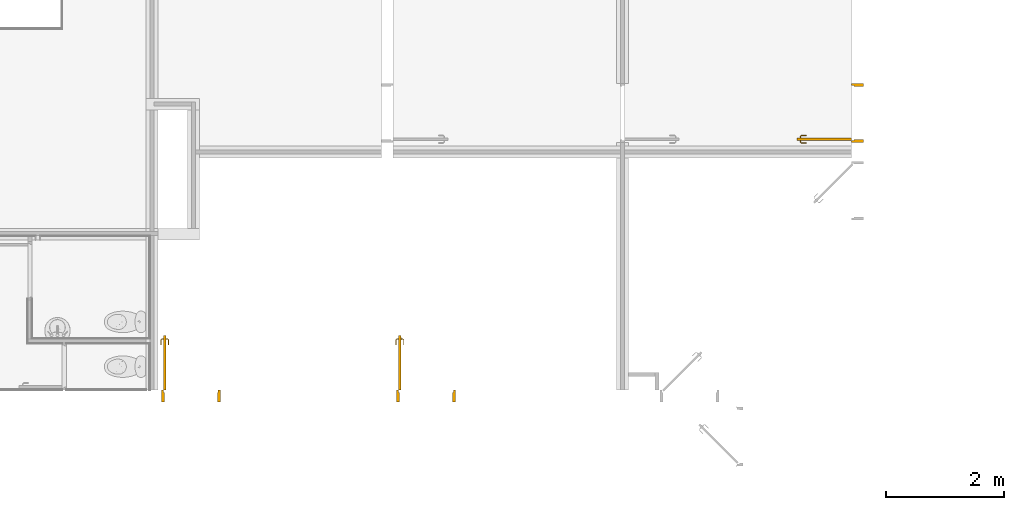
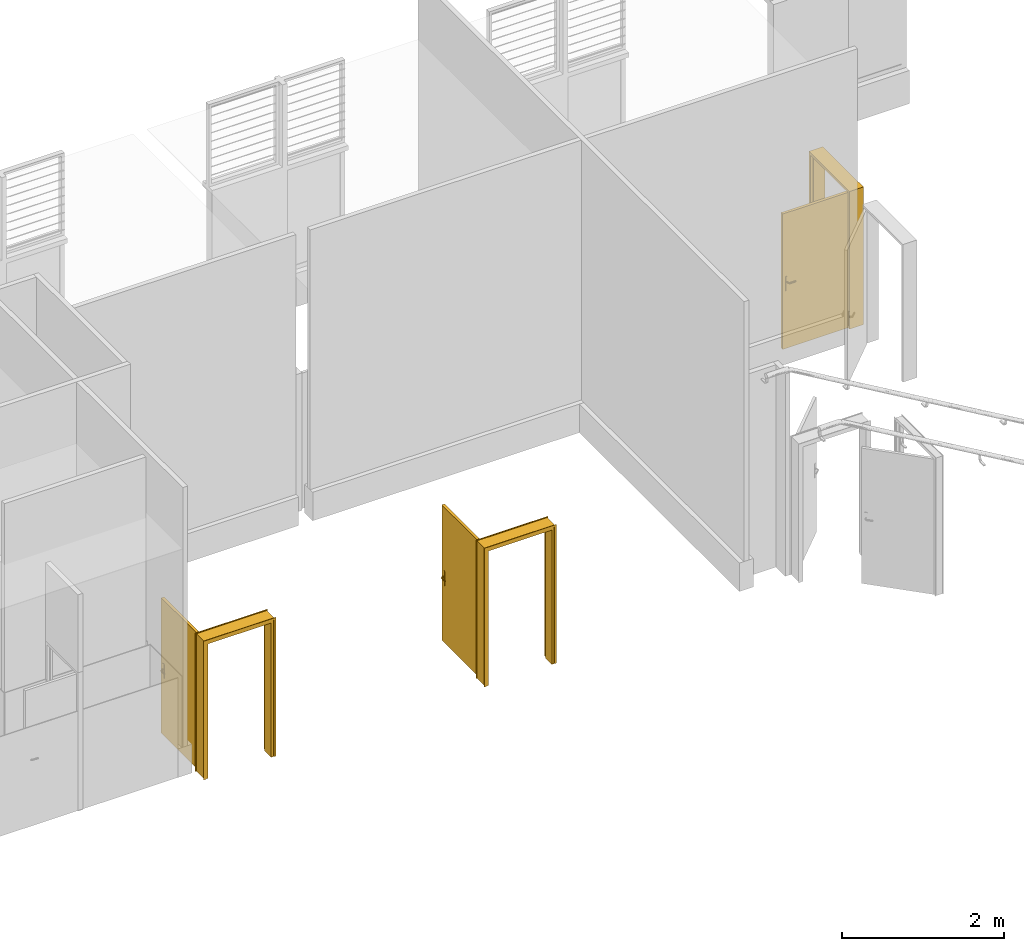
# One storey, part 12 of 18: 3 doors.
"""IFC2X3 building model written with IfcOpenShell, lengths in metres."""

import ifcopenshell
import ifcopenshell.guid

model = None  # the IFC model being written
_history = None  # IfcOwnerHistory: only IFC2X3 demands one
_inside = {}  # id of a spatial element -> (the spatial element, [elements in it])
_under = {}  # id of a project, library or spatial element -> (it, [spatial elements below it])
_declared = {}  # id of a project -> (the project, [libraries it declares])
_typed = {}  # id of a type object -> (the type object, [elements of that type])
_made_of = {}  # id of a material, layer set ... -> (it, [elements and type objects made of it])


def new_model(schema):
    """Start an empty IFC model of exactly this schema.

    Asked for "IFC4X3", IfcOpenShell would pick the latest addendum, in which some entities
    have other attributes; the version numbers below select the first issue.
    IFC2X3 requires an IfcOwnerHistory on every rooted entity: one is made here for all.
    """
    global model, _history
    if schema == "IFC4X3":
        model = ifcopenshell.file(schema_version=(4, 3, 0, 0))
    else:
        model = ifcopenshell.file(schema=schema)
    _inside.clear()
    _under.clear()
    _declared.clear()
    _typed.clear()
    _made_of.clear()
    _history = None
    if model.schema == "IFC2X3":
        org = make("IfcOrganization", Name="unknown")
        user = make(
            "IfcPersonAndOrganization",
            ThePerson=make("IfcPerson", FamilyName="unknown"),
            TheOrganization=org,
        )
        app = make(
            "IfcApplication",
            ApplicationDeveloper=org,
            Version="unknown",
            ApplicationFullName="unknown",
            ApplicationIdentifier="unknown",
        )
        _history = make(
            "IfcOwnerHistory",
            OwningUser=user,
            OwningApplication=app,
            ChangeAction="ADDED",
            CreationDate=0,
        )
    return model


def make(cls, **values):
    """One entity of the class cls with the attributes given. An attribute that is None is left unset."""
    return model.create_entity(
        cls, **{name: value for name, value in values.items() if value is not None}
    )


def entity(cls, *values):
    """Any entity or typed value of the class cls, its attributes in the order of the schema. None: left unset."""
    e = model.create_entity(cls)
    for i, value in enumerate(values):
        if value is not None:
            e[i] = value
    return e


def rooted(cls, **values):
    """An entity with a GlobalId (a new one), such as an element, a storey or a relation."""
    return make(cls, GlobalId=ifcopenshell.guid.new(), OwnerHistory=_history, **values)


def si_unit(unit_type, name, prefix=None):
    """IfcSIUnit, for example si_unit("LENGTHUNIT", "METRE", prefix="MILLI")."""
    return make("IfcSIUnit", UnitType=unit_type, Prefix=prefix, Name=name)


def converted_unit(unit_type, name, factor, base, dimensions=None, offset=None):
    """IfcConversionBasedUnit, such as the inch: factor (a typed value) times the base unit."""
    return make(
        "IfcConversionBasedUnit"
        if offset is None
        else "IfcConversionBasedUnitWithOffset",
        ConversionOffset=offset,
        Dimensions=None
        if dimensions is None
        else entity("IfcDimensionalExponents", *dimensions),
        UnitType=unit_type,
        Name=name,
        ConversionFactor=make(
            "IfcMeasureWithUnit", ValueComponent=factor, UnitComponent=base
        ),
    )


def derived_unit(unit_type, elements):
    """IfcDerivedUnit: a product of units, each with its exponent."""
    return make(
        "IfcDerivedUnit",
        Elements=[
            make("IfcDerivedUnitElement", Unit=unit, Exponent=power)
            for unit, power in elements
        ],
        UnitType=unit_type,
    )


def assignment(units):
    """IfcUnitAssignment: the units of a project."""
    return None if units is None else make("IfcUnitAssignment", Units=units)


def point(xyz):
    """IfcCartesianPoint."""
    return None if xyz is None else make("IfcCartesianPoint", Coordinates=xyz)


def direction(xyz):
    """IfcDirection."""
    return None if xyz is None else make("IfcDirection", DirectionRatios=xyz)


def frame(location, z_axis=None, x_axis=None):
    """IfcAxis2Placement3D, a coordinate frame: its origin and axes. An axis left out is left unset."""
    return make(
        "IfcAxis2Placement3D",
        Location=point(location),
        Axis=direction(z_axis),
        RefDirection=direction(x_axis),
    )


def origin():
    """The frame at (0, 0, 0) with its axes left unset."""
    return frame((0.0, 0.0, 0.0))


def place(relative_to, where):
    """IfcLocalPlacement: puts the frame where relative to a parent placement (None: the world)."""
    return make(
        "IfcLocalPlacement", PlacementRelTo=relative_to, RelativePlacement=where
    )


def context(
    kind, dimensions, precision=None, world=None, true_north=None, identifier=None
):
    """IfcGeometricRepresentationContext, for example the 3D "Model" context."""
    return make(
        "IfcGeometricRepresentationContext",
        ContextIdentifier=identifier,
        ContextType=kind,
        CoordinateSpaceDimension=dimensions,
        Precision=precision,
        WorldCoordinateSystem=world,
        TrueNorth=true_north,
    )


def subcontext(parent, identifier, kind, view, scale=None):
    """IfcGeometricRepresentationSubContext, for example "Body" below "Model"."""
    return make(
        "IfcGeometricRepresentationSubContext",
        ContextIdentifier=identifier,
        ContextType=kind,
        ParentContext=parent,
        TargetScale=scale,
        TargetView=view,
    )


def project(units=None, contexts=None):
    """IfcProject with its units and contexts."""
    return rooted(
        "IfcProject",
        Name="project",
        RepresentationContexts=contexts,
        UnitsInContext=assignment(units),
    )


def spatial(cls, under=None, at=None, **own):
    """A site, building, storey or space (cls), placed at a placement, below another one or the project."""
    s = rooted(cls, ObjectPlacement=at, **own)
    if under is not None:
        _under.setdefault(under.id(), (under, []))[1].append(s)
    return s


def faces_of(points, faces, orient=None, outer=None):
    """IfcFace entities. A face is a list of loops; a loop is a list of indices into points, from 0.

    orient and outer hold one flag for each loop. By default every Orientation is true, the
    first loop of a face is its IfcFaceOuterBound and the others are IfcFaceBound.
    """
    made = []
    for i, loops in enumerate(faces):
        bounds = []
        for j, loop in enumerate(loops):
            is_outer = j == 0 if outer is None else outer[i][j]
            bounds.append(
                make(
                    "IfcFaceOuterBound" if is_outer else "IfcFaceBound",
                    Bound=make("IfcPolyLoop", Polygon=[points[k] for k in loop]),
                    Orientation=True if orient is None else orient[i][j],
                )
            )
        made.append(make("IfcFace", Bounds=bounds))
    return made


def faceted_brep(points, faces, orient=None, outer=None, voids=None):
    """IfcFacetedBrep: a solid bounded by flat faces; with voids (closed shells), ...WithVoids."""
    shared = [point(p) for p in points]
    hull = make("IfcClosedShell", CfsFaces=faces_of(shared, faces, orient, outer))
    if voids is None:
        return make("IfcFacetedBrep", Outer=hull)
    return make(
        "IfcFacetedBrepWithVoids",
        Outer=hull,
        Voids=[
            make(cls, CfsFaces=faces_of(shared, fs, o, b)) for cls, fs, o, b in voids
        ],
    )


def shape(context_of_items, identifier, shape_type, items):
    """IfcShapeRepresentation: the items that make up one representation, for example the "Body"."""
    return make(
        "IfcShapeRepresentation",
        ContextOfItems=context_of_items,
        RepresentationIdentifier=identifier,
        RepresentationType=shape_type,
        Items=items,
    )


def source(mapping_origin, context_of_items, identifier, shape_type, items):
    """IfcRepresentationMap: a shape defined once, which mapped items show again and again."""
    return make(
        "IfcRepresentationMap",
        MappingOrigin=mapping_origin,
        MappedRepresentation=shape(context_of_items, identifier, shape_type, items),
    )


def transform(
    local_origin,
    x_axis=None,
    y_axis=None,
    z_axis=None,
    scale=None,
    scale2=None,
    scale3=None,
    uniform=True,
):
    """IfcCartesianTransformationOperator3D, or its non-uniform kind. x_axis, y_axis, z_axis: its Axis1, 2, 3."""
    if uniform:
        return make(
            "IfcCartesianTransformationOperator3D",
            Axis1=direction(x_axis),
            Axis2=direction(y_axis),
            LocalOrigin=point(local_origin),
            Scale=scale,
            Axis3=direction(z_axis),
        )
    return make(
        "IfcCartesianTransformationOperator3DnonUniform",
        Axis1=direction(x_axis),
        Axis2=direction(y_axis),
        LocalOrigin=point(local_origin),
        Scale=scale,
        Axis3=direction(z_axis),
        Scale2=scale2,
        Scale3=scale3,
    )


def mapped(mapping_source, mapping_target):
    """IfcMappedItem: shows the shape of a source again, moved by a transform."""
    return make(
        "IfcMappedItem", MappingSource=mapping_source, MappingTarget=mapping_target
    )


def material(Name=None, Category=None):
    """IfcMaterial."""
    return make("IfcMaterial", Name=Name, Category=Category)


def material_list(materials):
    """IfcMaterialList."""
    return make("IfcMaterialList", Materials=materials)


def made_of(thing, what):
    """Note that an element or type object is made of a material, layer set ...; save() writes the relation."""
    if what is not None:
        _made_of.setdefault(what.id(), (what, []))[1].append(thing)
    return thing


def type_object(cls, material=None, **own):
    """A type object (cls), such as IfcWallType, which elements share."""
    return made_of(rooted(cls, **own), material)


def type_shapes(of_type, sources):
    """Give a type object the sources (RepresentationMaps) that its elements show as mapped items."""
    of_type.RepresentationMaps = sources


def element(
    cls,
    number,
    at=None,
    inside=None,
    cuts=None,
    type_object=None,
    material=None,
    context=None,
    identifier="Body",
    shape_type=None,
    held_by="IfcProductDefinitionShape",
    body=None,
    shapes=None,
    **own,
):
    """One element of the class cls, such as IfcWall. Its Tag is "e" and its number.

    at: its placement. inside: the storey or other place that contains it. cuts: it is an
    opening in that element (IfcRelVoidsElement). A single representation is given by context,
    identifier, shape_type and body (its items); several are given by shapes. held_by: the class
    of the entity that holds the representations. save() writes the other relations.
    """
    e = rooted(cls, Tag="e%d" % number, ObjectPlacement=at, **own)
    if body is not None:
        shapes = [shape(context, identifier, shape_type, body)]
    if shapes is not None:
        e.Representation = make(held_by, Representations=shapes)
    if inside is not None:
        _inside.setdefault(inside.id(), (inside, []))[1].append(e)
    if cuts is not None:
        rooted(
            "IfcRelVoidsElement", RelatingBuildingElement=cuts, RelatedOpeningElement=e
        )
    if type_object is not None:
        _typed.setdefault(type_object.id(), (type_object, []))[1].append(e)
    return made_of(e, material)


def aggregate(whole, parts):
    """IfcRelAggregates: a whole, such as a stair, and the parts it consists of."""
    return rooted("IfcRelAggregates", RelatingObject=whole, RelatedObjects=parts)


def save(model, path):
    """Write the relations noted so far, then the file.

    IfcRelAggregates (storeys below a building ...), IfcRelContainedInSpatialStructure (elements
    in a storey), IfcRelDefinesByType, IfcRelAssociatesMaterial and IfcRelDeclares: one each for
    every whole, place, type object, material and project.
    """
    for whole, parts in _under.values():
        aggregate(whole, parts)
    for where, things in _inside.values():
        rooted(
            "IfcRelContainedInSpatialStructure",
            RelatedElements=things,
            RelatingStructure=where,
        )
    for kind, things in _typed.values():
        rooted("IfcRelDefinesByType", RelatedObjects=things, RelatingType=kind)
    for what, things in _made_of.values():
        rooted("IfcRelAssociatesMaterial", RelatedObjects=things, RelatingMaterial=what)
    for by, libraries in _declared.values():
        rooted("IfcRelDeclares", RelatingContext=by, RelatedDefinitions=libraries)
    model.write(path)


model = new_model("IFC2X3")

# Units and contexts
model_context = context("Model", 3, precision=1e-05, world=origin(), true_north=direction((6.12303176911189e-17, 1.0)))
body_context = subcontext(model_context, "Body", "Model", "MODEL_VIEW")
ifc_project = project(units=[si_unit("LENGTHUNIT", "METRE"), si_unit("AREAUNIT", "SQUARE_METRE"), si_unit("VOLUMEUNIT", "CUBIC_METRE"), converted_unit("PLANEANGLEUNIT", "DEGREE", entity("IfcRatioMeasure", 0.0174532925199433), si_unit("PLANEANGLEUNIT", "RADIAN"), dimensions=[0, 0, 0, 0, 0, 0, 0]), si_unit("MASSUNIT", "GRAM", prefix="KILO"), derived_unit("MASSDENSITYUNIT", [(si_unit("MASSUNIT", "GRAM", prefix="KILO"), 1), (si_unit("LENGTHUNIT", "METRE"), -3)]), si_unit("TIMEUNIT", "SECOND"), si_unit("FREQUENCYUNIT", "HERTZ"), si_unit("THERMODYNAMICTEMPERATUREUNIT", "DEGREE_CELSIUS"), derived_unit("THERMALTRANSMITTANCEUNIT", [(si_unit("MASSUNIT", "GRAM", prefix="KILO"), 1), (si_unit("THERMODYNAMICTEMPERATUREUNIT", "KELVIN"), -1), (si_unit("TIMEUNIT", "SECOND"), -3)]), derived_unit("VOLUMETRICFLOWRATEUNIT", [(si_unit("LENGTHUNIT", "METRE"), 3), (si_unit("TIMEUNIT", "SECOND"), -1)]), si_unit("ELECTRICCURRENTUNIT", "AMPERE"), si_unit("ELECTRICVOLTAGEUNIT", "VOLT"), si_unit("POWERUNIT", "WATT"), si_unit("FORCEUNIT", "NEWTON", prefix="KILO"), si_unit("ILLUMINANCEUNIT", "LUX"), si_unit("LUMINOUSFLUXUNIT", "LUMEN"), si_unit("LUMINOUSINTENSITYUNIT", "CANDELA"), derived_unit("USERDEFINED", [(si_unit("MASSUNIT", "GRAM", prefix="KILO"), -1), (si_unit("LENGTHUNIT", "METRE"), -2), (si_unit("TIMEUNIT", "SECOND"), 3), (si_unit("LUMINOUSFLUXUNIT", "LUMEN"), 1)]), derived_unit("LINEARVELOCITYUNIT", [(si_unit("LENGTHUNIT", "METRE"), 1), (si_unit("TIMEUNIT", "SECOND"), -1)]), si_unit("PRESSUREUNIT", "PASCAL"), derived_unit("USERDEFINED", [(si_unit("LENGTHUNIT", "METRE"), -2), (si_unit("MASSUNIT", "GRAM", prefix="KILO"), 1), (si_unit("TIMEUNIT", "SECOND"), -2)])], contexts=[model_context])

# Site, building, storey
site_placement = place(None, origin())
site = spatial("IfcSite", under=ifc_project, at=site_placement, Name="Surface", CompositionType="ELEMENT")
building_placement = place(site_placement, origin())
building = spatial("IfcBuilding", under=site, at=building_placement, Name="ExPREF", CompositionType="ELEMENT")
storey_placement = place(building_placement, frame((0.0, 0.0, -4.62)))
storey = spatial("IfcBuildingStorey", under=building, at=storey_placement, Name="R-1", CompositionType="ELEMENT", Elevation=-4.62)

# Doors
ifc_material_1 = material(Name="AA-Blanc satiné")
ifc_material_2 = material(Name="AA-Aluminium")
ifc_material_list_1 = material_list([ifc_material_1, ifc_material_2])
ifc_material_list_2 = material_list([ifc_material_1, ifc_material_2])
door_style_1 = type_object("IfcDoorStyle", Name="PP (0.93m x 2.04m) métal", ConstructionType="NOTDEFINED", OperationType="SINGLE_SWING_LEFT", ParameterTakesPrecedence=False, Sizeable=False, material=ifc_material_list_2)
shared_shape_1 = source(origin(), body_context, "Body", "Brep", [
    faceted_brep([(0.919999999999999, -0.872025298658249, 1.00778044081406), (0.919999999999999, -0.876000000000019, 1.007), (0.919999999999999, -0.876000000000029, 0.992999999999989), (0.919999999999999, -0.872025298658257, 0.99221955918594), (0.919999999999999, -0.867974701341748, 0.992219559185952), (0.919999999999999, -0.863999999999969, 0.993000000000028), (0.919999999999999, -0.86399999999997, 1.007), (0.919999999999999, -0.867974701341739, 1.00778044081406), (0.897514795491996, -0.863999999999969, 0.993000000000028), (0.897514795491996, -0.863999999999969, 1.007), (0.895868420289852, -0.867974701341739, 1.00778044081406), (0.882054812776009, -0.854161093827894, 1.00778044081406), (0.878004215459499, -0.855838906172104, 1.00778044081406), (0.894190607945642, -0.872025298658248, 1.00778044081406), (0.892544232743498, -0.876000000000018, 1.007), (0.892544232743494, -0.876000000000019, 0.992999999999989), (0.894190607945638, -0.872025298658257, 0.99221955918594), (0.87800421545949, -0.855838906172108, 0.99221955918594), (0.882054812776, -0.854161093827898, 0.992219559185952), (0.895868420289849, -0.867974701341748, 0.992219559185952), (0.886029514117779, -0.852514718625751, 0.993000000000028), (0.886029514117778, -0.85251471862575, 1.007), (0.874029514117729, -0.857485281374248, 1.007), (0.874029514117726, -0.857485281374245, 0.992999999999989), (0.886029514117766, -0.769954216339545, 0.993000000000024), (0.882054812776, -0.769954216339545, 0.992219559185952), (0.87800421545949, -0.769954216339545, 0.99221955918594), (0.874029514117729, -0.769954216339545, 0.992999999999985), (0.87402951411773, -0.769954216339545, 1.007), (0.878004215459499, -0.769954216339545, 1.00778044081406), (0.882054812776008, -0.769954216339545, 1.00778044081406), (0.886029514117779, -0.769954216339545, 1.007), (0.886029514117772, -0.811234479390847, 0.993000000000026), (0.886029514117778, -0.811234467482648, 1.007), (0.880029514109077, -0.812057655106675, 1.0078786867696), (0.87402951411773, -0.81755479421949, 1.007), (0.874029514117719, -0.8175547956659, 0.992999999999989), (0.880029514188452, -0.812057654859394, 0.992121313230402)], [[[0, 1, 2, 3, 4, 5, 6, 7]], [[6, 5, 8, 9]], [[9, 10, 7, 6]], [[10, 11, 12, 13, 0, 7]], [[13, 14, 1, 0]], [[2, 1, 14, 15]], [[15, 16, 3, 2]], [[16, 17, 18, 19, 4, 3]], [[19, 8, 5, 4]], [[9, 8, 20, 21]], [[21, 11, 10, 9]], [[12, 22, 14, 13]], [[15, 14, 22, 23]], [[23, 17, 16, 15]], [[18, 20, 8, 19]], [[24, 25, 26, 27, 28, 29, 30, 31]], [[21, 20, 32, 24, 31, 33]], [[33, 30, 34]], [[35, 34, 29]], [[21, 33, 11]], [[33, 31, 30]], [[28, 35, 29]], [[22, 12, 35]], [[35, 12, 34]], [[12, 11, 34]], [[11, 33, 34]], [[29, 34, 30]], [[22, 35, 28, 27, 36, 23]], [[36, 26, 37]], [[27, 26, 36]], [[17, 23, 36]], [[37, 32, 18]], [[20, 18, 32]], [[32, 25, 24]], [[26, 25, 37]], [[25, 32, 37]], [[17, 36, 37]], [[17, 37, 18]]]),
    faceted_brep([(0.969999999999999, -0.872025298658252, 1.00778044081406), (0.969999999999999, -0.867974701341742, 1.00778044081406), (0.969999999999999, -0.863999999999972, 1.00699999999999), (0.969999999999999, -0.863999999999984, 0.993000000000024), (0.969999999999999, -0.867974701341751, 0.992219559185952), (0.969999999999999, -0.87202529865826, 0.99221955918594), (0.969999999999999, -0.876000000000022, 0.992999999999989), (0.969999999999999, -0.876000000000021, 1.007), (0.997650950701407, -0.876000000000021, 1.007), (0.996004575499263, -0.872025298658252, 1.00778044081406), (1.01205345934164, -0.855976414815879, 1.00778044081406), (1.00800286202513, -0.854298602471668, 1.00778044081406), (0.994326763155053, -0.867974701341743, 1.00778044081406), (0.992680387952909, -0.86399999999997, 1.007), (0.992680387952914, -0.863999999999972, 0.993000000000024), (0.994326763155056, -0.867974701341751, 0.992219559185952), (1.00800286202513, -0.854298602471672, 0.992219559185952), (1.01205345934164, -0.855976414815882, 0.99221955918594), (0.996004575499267, -0.87202529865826, 0.99221955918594), (0.997650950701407, -0.876000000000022, 0.992999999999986), (1.0160281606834, -0.857622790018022, 1.007), (1.00402816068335, -0.852652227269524, 1.007), (1.00402816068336, -0.852652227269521, 0.993000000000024), (1.01602816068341, -0.857622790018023, 0.992999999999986), (1.01602816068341, -0.769981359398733, 0.992999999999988), (1.01205345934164, -0.769981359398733, 0.99221955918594), (1.00800286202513, -0.769981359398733, 0.992219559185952), (1.00402816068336, -0.769981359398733, 0.993000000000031), (1.00402816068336, -0.769981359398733, 1.007), (1.00800286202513, -0.769981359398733, 1.00778044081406), (1.01205345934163, -0.769981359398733, 1.00778044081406), (1.0160281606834, -0.769981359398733, 1.00699999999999), (1.01602816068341, -0.817692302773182, 1.007), (1.01002816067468, -0.812139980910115, 1.0078786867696), (1.00402816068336, -0.811316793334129, 1.007), (1.00402816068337, -0.811316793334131, 0.993000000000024), (1.01002816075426, -0.812139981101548, 0.992121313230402), (1.01602816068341, -0.817692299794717, 0.992999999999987)], [[[0, 1, 2, 3, 4, 5, 6, 7]], [[8, 9, 0, 7]], [[9, 10, 11, 12, 1, 0]], [[12, 13, 2, 1]], [[3, 2, 13, 14]], [[14, 15, 4, 3]], [[15, 16, 17, 18, 5, 4]], [[18, 19, 6, 5]], [[7, 6, 19, 8]], [[20, 10, 9, 8]], [[11, 21, 13, 12]], [[14, 13, 21, 22]], [[22, 16, 15, 14]], [[17, 23, 19, 18]], [[8, 19, 23, 20]], [[24, 25, 26, 27, 28, 29, 30, 31]], [[32, 30, 33]], [[31, 30, 32]], [[10, 20, 32]], [[33, 34, 11]], [[21, 11, 34]], [[34, 29, 28]], [[30, 29, 33]], [[29, 34, 33]], [[10, 32, 33]], [[10, 33, 11]], [[22, 21, 34, 28, 27, 35]], [[35, 26, 36]], [[37, 36, 25]], [[22, 35, 16]], [[35, 27, 26]], [[24, 37, 25]], [[23, 17, 37]], [[37, 17, 36]], [[17, 16, 36]], [[16, 35, 36]], [[25, 36, 26]], [[20, 23, 37, 24, 31, 32]]]),
    faceted_brep([(0.924999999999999, -0.859647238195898, 0.866003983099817), (0.924999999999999, -0.849999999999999, 0.870000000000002), (0.924999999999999, -0.850000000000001, 1.08), (0.924999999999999, -0.8596472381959, 1.08399601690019), (0.924999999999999, -0.87, 1.08535898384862), (0.924999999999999, -0.880352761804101, 1.08399601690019), (0.924999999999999, -0.89, 1.08), (0.924999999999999, -0.889999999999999, 0.870000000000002), (0.924999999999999, -0.880352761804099, 0.866003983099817), (0.924999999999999, -0.869999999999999, 0.86464101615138), (0.919999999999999, -0.8596472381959, 1.08399601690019), (0.919999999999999, -0.850000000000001, 1.08), (0.919999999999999, -0.849999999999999, 0.870000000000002), (0.919999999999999, -0.859647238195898, 0.866003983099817), (0.919999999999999, -0.869999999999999, 0.86464101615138), (0.919999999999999, -0.880352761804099, 0.866003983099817), (0.919999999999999, -0.89, 0.870000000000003), (0.919999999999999, -0.89, 1.08), (0.919999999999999, -0.880352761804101, 1.08399601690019), (0.919999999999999, -0.87, 1.08535898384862)], [[[0, 1, 2, 3, 4, 5, 6, 7, 8, 9]], [[10, 11, 12, 13, 14, 15, 16, 17, 18, 19]], [[11, 10, 3, 2]], [[3, 10, 19, 4]], [[19, 18, 5, 4]], [[18, 17, 6, 5]], [[7, 6, 17, 16]], [[16, 15, 8, 7]], [[8, 15, 14, 9]], [[14, 13, 0, 9]], [[13, 12, 1, 0]], [[2, 1, 12, 11]]]),
    faceted_brep([(0.969999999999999, -0.859647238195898, 0.866003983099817), (0.969999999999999, -0.849999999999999, 0.870000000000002), (0.969999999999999, -0.85, 1.08), (0.969999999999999, -0.859647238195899, 1.08399601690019), (0.969999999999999, -0.87, 1.08535898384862), (0.969999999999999, -0.880352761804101, 1.08399601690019), (0.969999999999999, -0.89, 1.08), (0.969999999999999, -0.889999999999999, 0.870000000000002), (0.969999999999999, -0.880352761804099, 0.866003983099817), (0.969999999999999, -0.869999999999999, 0.86464101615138), (0.964999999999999, -0.859647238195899, 1.08399601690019), (0.964999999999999, -0.850000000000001, 1.08), (0.964999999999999, -0.849999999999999, 0.870000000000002), (0.964999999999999, -0.859647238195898, 0.866003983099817), (0.964999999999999, -0.869999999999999, 0.86464101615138), (0.964999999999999, -0.880352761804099, 0.866003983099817), (0.964999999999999, -0.89, 0.870000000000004), (0.964999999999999, -0.89, 1.08), (0.964999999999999, -0.880352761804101, 1.08399601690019), (0.964999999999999, -0.87, 1.08535898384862)], [[[0, 1, 2, 3, 4, 5, 6, 7, 8, 9]], [[10, 11, 12, 13, 14, 15, 16, 17, 18, 19]], [[16, 15, 8, 7]], [[8, 15, 14, 9]], [[14, 13, 0, 9]], [[13, 12, 1, 0]], [[2, 1, 12, 11]], [[11, 10, 3, 2]], [[3, 10, 19, 4]], [[19, 18, 5, 4]], [[18, 17, 6, 5]], [[7, 6, 17, 16]]]),
    faceted_brep([(0.924999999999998, -0.93, 2.04), (0.924999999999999, 0.0, 2.04), (0.924999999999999, 0.0, 0.0), (0.924999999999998, -0.93, 0.0), (0.964999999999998, -0.93, 2.04), (0.964999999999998, -0.93, 0.0), (0.965, 0.0, 0.0), (0.965, 0.0, 2.04)], [[[0, 1, 2, 3]], [[4, 5, 6, 7]], [[1, 0, 4, 7]], [[2, 1, 7, 6]], [[3, 2, 6, 5]], [[0, 3, 5, 4]]]),
    faceted_brep([(0.0, 0.0, 0.0), (0.0, 0.200000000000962, 0.0), (0.0499999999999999, 0.200000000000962, 0.0), (0.0499999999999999, 0.040000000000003, 0.0), (0.0349999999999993, 0.040000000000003, 0.0), (0.0349999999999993, 0.0, 0.0), (0.0, 0.0, 2.07500000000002), (0.0, 0.200000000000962, 2.07500000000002), (1.0, 0.200000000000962, 2.07500000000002), (1.0, 0.200000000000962, 0.0), (0.95, 0.200000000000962, 0.0), (0.95, 0.200000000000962, 2.025), (0.0500000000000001, 0.200000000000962, 2.025), (0.05, 0.040000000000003, 2.025), (0.95, 0.040000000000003, 2.025), (0.95, 0.040000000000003, 0.0), (0.965, 0.040000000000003, 0.0), (0.965, 0.040000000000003, 2.04), (0.0349999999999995, 0.040000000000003, 2.04), (0.0349999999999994, 0.0, 2.04), (0.965, 0.0, 2.04), (0.965, 0.0, 0.0), (1.0, 0.0, 0.0), (1.0, 0.0, 2.07500000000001)], [[[0, 1, 2, 3, 4, 5]], [[1, 0, 6, 7]], [[2, 1, 7, 8, 9, 10, 11, 12]], [[3, 2, 12, 13]], [[4, 3, 13, 14, 15, 16, 17, 18]], [[5, 4, 18, 19]], [[0, 5, 19, 20, 21, 22, 23, 6]], [[8, 23, 22, 9]], [[22, 21, 16, 15, 10, 9]], [[14, 11, 10, 15]], [[20, 17, 16, 21]], [[7, 6, 23, 8]], [[13, 12, 11, 14]], [[19, 18, 17, 20]]]),
    faceted_brep([(0.0149999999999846, 0.200000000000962, 0.0), (-0.0150000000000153, 0.200000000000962, 0.0), (-0.0150000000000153, 0.205000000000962, 0.0), (0.0149999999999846, 0.205000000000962, 0.0), (0.0149999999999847, 0.200000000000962, 2.06000000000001), (0.98499999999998, 0.200000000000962, 2.06000000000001), (0.98499999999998, 0.200000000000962, 0.0), (1.01499999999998, 0.200000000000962, 0.0), (1.01499999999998, 0.200000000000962, 2.09000000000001), (-0.0150000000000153, 0.200000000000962, 2.09000000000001), (-0.0150000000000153, 0.205000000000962, 2.09000000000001), (1.01499999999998, 0.205000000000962, 2.09000000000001), (1.01499999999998, 0.205000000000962, 0.0), (0.98499999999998, 0.205000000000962, 0.0), (0.98499999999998, 0.205000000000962, 2.06000000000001), (0.0149999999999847, 0.205000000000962, 2.06000000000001)], [[[0, 1, 2, 3]], [[1, 0, 4, 5, 6, 7, 8, 9]], [[2, 1, 9, 10]], [[3, 2, 10, 11, 12, 13, 14, 15]], [[0, 3, 15, 4]], [[6, 13, 12, 7]], [[5, 14, 13, 6]], [[11, 8, 7, 12]], [[10, 9, 8, 11]], [[4, 15, 14, 5]]]),
    faceted_brep([(-0.0150000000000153, -0.00500000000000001, 0.0), (0.0149999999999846, -0.00500000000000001, 0.0), (0.0149999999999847, -0.00500000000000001, 2.06000000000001), (0.98499999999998, -0.00500000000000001, 2.06000000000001), (0.98499999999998, -0.00500000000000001, 0.0), (1.01499999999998, -0.00500000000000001, 0.0), (1.01499999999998, -0.00500000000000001, 2.09000000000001), (-0.0150000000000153, -0.00500000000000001, 2.09000000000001), (-0.0150000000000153, 0.0, 0.0), (-0.0150000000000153, 0.0, 2.09000000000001), (0.0149999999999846, 0.0, 0.0), (1.01499999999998, 0.0, 2.09000000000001), (1.01499999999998, 0.0, 0.0), (0.98499999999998, 0.0, 0.0), (0.98499999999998, 0.0, 2.06000000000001), (0.0149999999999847, 0.0, 2.06000000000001)], [[[0, 1, 2, 3, 4, 5, 6, 7]], [[8, 0, 7, 9]], [[10, 8, 9, 11, 12, 13, 14, 15]], [[1, 10, 15, 2]], [[3, 14, 13, 4]], [[11, 6, 5, 12]], [[9, 7, 6, 11]], [[2, 15, 14, 3]], [[4, 13, 12, 5]], [[1, 0, 8, 10]]]),
])
type_shapes(door_style_1, [shared_shape_1])
door_1_placement = place(storey_placement, frame((54.6497436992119, -193.259651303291, 0.0), z_axis=(0.0, 0.0, 1.0), x_axis=(-1.0, 0.0, 0.0)))
element("IfcDoor", 1, at=door_1_placement, inside=storey, type_object=door_style_1, material=ifc_material_list_1, Name="Int. Simple:PP (0.93m x 2.04m) métal", ObjectType="PP (0.93m x 2.04m) métal", OverallHeight=2.09000000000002, OverallWidth=1.03102816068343, context=body_context, shape_type="MappedRepresentation", body=[
    mapped(shared_shape_1, transform((0.0, 0.0, 0.0), scale=1.0)),
])
ifc_material_list_3 = material_list([ifc_material_1, ifc_material_2])
door_2_placement = place(storey_placement, frame((50.649743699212, -193.259651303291, 0.0), z_axis=(0.0, 0.0, 1.0), x_axis=(-1.0, 0.0, 0.0)))
element("IfcDoor", 2, at=door_2_placement, inside=storey, type_object=door_style_1, material=ifc_material_list_3, Name="Int. Simple:PP (0.93m x 2.04m) métal", ObjectType="PP (0.93m x 2.04m) métal", OverallHeight=2.09000000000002, OverallWidth=1.03102816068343, context=body_context, shape_type="MappedRepresentation", body=[
    mapped(shared_shape_1, transform((0.0, 0.0, 0.0), scale=1.0)),
])
door_style_2 = type_object("IfcDoorStyle", Name="PP (0.93m x 2.04m)", ConstructionType="NOTDEFINED", OperationType="SINGLE_SWING_LEFT", ParameterTakesPrecedence=False, Sizeable=False, material=ifc_material_1)
shared_shape_2 = source(origin(), body_context, "Body", "Brep", [
    faceted_brep([(0.919999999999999, -0.872025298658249, 1.00778044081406), (0.919999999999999, -0.876000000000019, 1.007), (0.919999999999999, -0.876000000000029, 0.992999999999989), (0.919999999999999, -0.872025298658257, 0.99221955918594), (0.919999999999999, -0.867974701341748, 0.992219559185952), (0.919999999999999, -0.863999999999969, 0.993000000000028), (0.919999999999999, -0.86399999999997, 1.007), (0.919999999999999, -0.867974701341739, 1.00778044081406), (0.897514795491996, -0.863999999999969, 0.993000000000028), (0.897514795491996, -0.863999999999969, 1.007), (0.895868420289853, -0.867974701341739, 1.00778044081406), (0.882054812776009, -0.854161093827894, 1.00778044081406), (0.8780042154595, -0.855838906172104, 1.00778044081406), (0.894190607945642, -0.872025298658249, 1.00778044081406), (0.892544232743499, -0.876000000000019, 1.007), (0.892544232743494, -0.876000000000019, 0.992999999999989), (0.894190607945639, -0.872025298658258, 0.99221955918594), (0.87800421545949, -0.855838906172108, 0.99221955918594), (0.882054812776, -0.854161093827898, 0.992219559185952), (0.895868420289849, -0.867974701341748, 0.992219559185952), (0.886029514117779, -0.852514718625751, 0.993000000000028), (0.886029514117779, -0.852514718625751, 1.007), (0.87402951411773, -0.857485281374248, 1.007), (0.874029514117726, -0.857485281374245, 0.992999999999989), (0.886029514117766, -0.769954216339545, 0.993000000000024), (0.882054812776, -0.769954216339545, 0.992219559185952), (0.87800421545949, -0.769954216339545, 0.99221955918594), (0.874029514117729, -0.769954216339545, 0.992999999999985), (0.87402951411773, -0.769954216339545, 1.007), (0.878004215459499, -0.769954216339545, 1.00778044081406), (0.882054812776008, -0.769954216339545, 1.00778044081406), (0.886029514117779, -0.769954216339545, 1.007), (0.886029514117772, -0.811234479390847, 0.993000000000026), (0.886029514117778, -0.811234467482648, 1.007), (0.880029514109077, -0.812057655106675, 1.0078786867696), (0.87402951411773, -0.81755479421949, 1.007), (0.874029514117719, -0.8175547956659, 0.992999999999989), (0.880029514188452, -0.812057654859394, 0.992121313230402)], [[[0, 1, 2, 3, 4, 5, 6, 7]], [[6, 5, 8, 9]], [[9, 10, 7, 6]], [[10, 11, 12, 13, 0, 7]], [[13, 14, 1, 0]], [[2, 1, 14, 15]], [[15, 16, 3, 2]], [[16, 17, 18, 19, 4, 3]], [[19, 8, 5, 4]], [[9, 8, 20, 21]], [[21, 11, 10, 9]], [[12, 22, 14, 13]], [[15, 14, 22, 23]], [[23, 17, 16, 15]], [[18, 20, 8, 19]], [[24, 25, 26, 27, 28, 29, 30, 31]], [[21, 20, 32, 24, 31, 33]], [[33, 30, 34]], [[35, 34, 29]], [[21, 33, 11]], [[33, 31, 30]], [[28, 35, 29]], [[22, 12, 35]], [[35, 12, 34]], [[12, 11, 34]], [[11, 33, 34]], [[29, 34, 30]], [[22, 35, 28, 27, 36, 23]], [[36, 26, 37]], [[27, 26, 36]], [[17, 23, 36]], [[37, 32, 18]], [[20, 18, 32]], [[32, 25, 24]], [[26, 25, 37]], [[25, 32, 37]], [[17, 36, 37]], [[17, 37, 18]]]),
    faceted_brep([(0.969999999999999, -0.872025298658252, 1.00778044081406), (0.969999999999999, -0.867974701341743, 1.00778044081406), (0.969999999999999, -0.863999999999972, 1.00699999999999), (0.969999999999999, -0.863999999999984, 0.993000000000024), (0.969999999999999, -0.867974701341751, 0.992219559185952), (0.969999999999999, -0.87202529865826, 0.99221955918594), (0.969999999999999, -0.876000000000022, 0.992999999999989), (0.969999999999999, -0.876000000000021, 1.007), (0.997650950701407, -0.876000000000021, 1.007), (0.996004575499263, -0.872025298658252, 1.00778044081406), (1.01205345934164, -0.855976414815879, 1.00778044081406), (1.00800286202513, -0.854298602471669, 1.00778044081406), (0.994326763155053, -0.867974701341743, 1.00778044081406), (0.992680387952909, -0.863999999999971, 1.007), (0.992680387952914, -0.863999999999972, 0.993000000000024), (0.994326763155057, -0.867974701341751, 0.992219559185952), (1.00800286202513, -0.854298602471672, 0.992219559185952), (1.01205345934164, -0.855976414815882, 0.99221955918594), (0.996004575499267, -0.87202529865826, 0.99221955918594), (0.997650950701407, -0.876000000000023, 0.992999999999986), (1.0160281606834, -0.857622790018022, 1.007), (1.00402816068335, -0.852652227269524, 1.007), (1.00402816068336, -0.852652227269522, 0.993000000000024), (1.01602816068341, -0.857622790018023, 0.992999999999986), (1.01602816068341, -0.769981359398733, 0.992999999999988), (1.01205345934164, -0.769981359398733, 0.99221955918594), (1.00800286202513, -0.769981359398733, 0.992219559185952), (1.00402816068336, -0.769981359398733, 0.993000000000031), (1.00402816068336, -0.769981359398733, 1.007), (1.00800286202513, -0.769981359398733, 1.00778044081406), (1.01205345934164, -0.769981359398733, 1.00778044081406), (1.01602816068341, -0.769981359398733, 1.00699999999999), (1.01602816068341, -0.817692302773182, 1.007), (1.01002816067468, -0.812139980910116, 1.0078786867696), (1.00402816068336, -0.811316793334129, 1.007), (1.00402816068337, -0.811316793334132, 0.993000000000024), (1.01002816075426, -0.812139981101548, 0.992121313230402), (1.01602816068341, -0.817692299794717, 0.992999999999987)], [[[0, 1, 2, 3, 4, 5, 6, 7]], [[8, 9, 0, 7]], [[9, 10, 11, 12, 1, 0]], [[12, 13, 2, 1]], [[3, 2, 13, 14]], [[14, 15, 4, 3]], [[15, 16, 17, 18, 5, 4]], [[18, 19, 6, 5]], [[7, 6, 19, 8]], [[20, 10, 9, 8]], [[11, 21, 13, 12]], [[14, 13, 21, 22]], [[22, 16, 15, 14]], [[17, 23, 19, 18]], [[8, 19, 23, 20]], [[24, 25, 26, 27, 28, 29, 30, 31]], [[32, 30, 33]], [[31, 30, 32]], [[10, 20, 32]], [[33, 34, 11]], [[21, 11, 34]], [[34, 29, 28]], [[30, 29, 33]], [[29, 34, 33]], [[10, 32, 33]], [[10, 33, 11]], [[22, 21, 34, 28, 27, 35]], [[35, 26, 36]], [[37, 36, 25]], [[22, 35, 16]], [[35, 27, 26]], [[24, 37, 25]], [[23, 17, 37]], [[37, 17, 36]], [[17, 16, 36]], [[16, 35, 36]], [[25, 36, 26]], [[20, 23, 37, 24, 31, 32]]]),
    faceted_brep([(0.924999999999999, -0.859647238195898, 0.866003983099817), (0.924999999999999, -0.849999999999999, 0.870000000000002), (0.924999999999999, -0.850000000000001, 1.08), (0.924999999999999, -0.8596472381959, 1.08399601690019), (0.924999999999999, -0.870000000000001, 1.08535898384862), (0.924999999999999, -0.880352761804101, 1.08399601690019), (0.924999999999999, -0.89, 1.08), (0.924999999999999, -0.889999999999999, 0.870000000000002), (0.924999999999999, -0.8803527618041, 0.866003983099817), (0.924999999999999, -0.869999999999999, 0.86464101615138), (0.919999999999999, -0.8596472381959, 1.08399601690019), (0.92, -0.850000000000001, 1.08), (0.92, -0.849999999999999, 0.870000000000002), (0.919999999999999, -0.859647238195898, 0.866003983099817), (0.919999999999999, -0.869999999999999, 0.86464101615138), (0.919999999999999, -0.8803527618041, 0.866003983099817), (0.919999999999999, -0.89, 0.870000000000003), (0.919999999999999, -0.89, 1.08), (0.919999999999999, -0.880352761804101, 1.08399601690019), (0.919999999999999, -0.870000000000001, 1.08535898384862)], [[[0, 1, 2, 3, 4, 5, 6, 7, 8, 9]], [[10, 11, 12, 13, 14, 15, 16, 17, 18, 19]], [[11, 10, 3, 2]], [[3, 10, 19, 4]], [[19, 18, 5, 4]], [[18, 17, 6, 5]], [[7, 6, 17, 16]], [[16, 15, 8, 7]], [[8, 15, 14, 9]], [[14, 13, 0, 9]], [[13, 12, 1, 0]], [[2, 1, 12, 11]]]),
    faceted_brep([(0.969999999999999, -0.859647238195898, 0.866003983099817), (0.969999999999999, -0.849999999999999, 0.870000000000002), (0.969999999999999, -0.850000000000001, 1.08), (0.969999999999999, -0.8596472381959, 1.08399601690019), (0.969999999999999, -0.87, 1.08535898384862), (0.969999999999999, -0.880352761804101, 1.08399601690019), (0.969999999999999, -0.89, 1.08), (0.969999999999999, -0.889999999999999, 0.870000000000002), (0.969999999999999, -0.8803527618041, 0.866003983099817), (0.969999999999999, -0.869999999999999, 0.86464101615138), (0.964999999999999, -0.8596472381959, 1.08399601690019), (0.965, -0.850000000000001, 1.08), (0.965, -0.849999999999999, 0.870000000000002), (0.964999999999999, -0.859647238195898, 0.866003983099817), (0.964999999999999, -0.869999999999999, 0.86464101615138), (0.964999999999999, -0.8803527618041, 0.866003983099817), (0.964999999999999, -0.89, 0.870000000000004), (0.964999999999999, -0.89, 1.08), (0.964999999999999, -0.880352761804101, 1.08399601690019), (0.964999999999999, -0.87, 1.08535898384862)], [[[0, 1, 2, 3, 4, 5, 6, 7, 8, 9]], [[10, 11, 12, 13, 14, 15, 16, 17, 18, 19]], [[16, 15, 8, 7]], [[8, 15, 14, 9]], [[14, 13, 0, 9]], [[13, 12, 1, 0]], [[2, 1, 12, 11]], [[11, 10, 3, 2]], [[3, 10, 19, 4]], [[19, 18, 5, 4]], [[18, 17, 6, 5]], [[7, 6, 17, 16]]]),
    faceted_brep([(0.924999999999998, -0.93, 2.04), (0.924999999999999, 0.0, 2.04), (0.924999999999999, 0.0, 0.0), (0.924999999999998, -0.93, 0.0), (0.964999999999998, -0.93, 2.04), (0.964999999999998, -0.93, 0.0), (0.965, 0.0, 0.0), (0.965, 0.0, 2.04)], [[[0, 1, 2, 3]], [[4, 5, 6, 7]], [[1, 0, 4, 7]], [[2, 1, 7, 6]], [[3, 2, 6, 5]], [[0, 3, 5, 4]]]),
    faceted_brep([(0.0, 0.0, 0.0), (0.0, 0.200000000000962, 0.0), (0.0499999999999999, 0.200000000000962, 0.0), (0.0499999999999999, 0.0400000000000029, 0.0), (0.0349999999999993, 0.040000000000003, 0.0), (0.0349999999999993, 0.0, 0.0), (0.0, 0.0, 2.07500000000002), (0.0, 0.200000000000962, 2.07500000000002), (1.0, 0.200000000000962, 2.07500000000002), (1.0, 0.200000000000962, 0.0), (0.95, 0.200000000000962, 0.0), (0.95, 0.200000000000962, 2.025), (0.0500000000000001, 0.200000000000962, 2.025), (0.05, 0.0400000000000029, 2.025), (0.95, 0.040000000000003, 2.025), (0.95, 0.040000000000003, 0.0), (0.965, 0.040000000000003, 0.0), (0.965, 0.040000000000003, 2.04), (0.0349999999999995, 0.040000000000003, 2.04), (0.0349999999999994, 0.0, 2.04), (0.965, 0.0, 2.04), (0.965, 0.0, 0.0), (1.0, 0.0, 0.0), (1.0, 0.0, 2.07500000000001)], [[[0, 1, 2, 3, 4, 5]], [[1, 0, 6, 7]], [[2, 1, 7, 8, 9, 10, 11, 12]], [[3, 2, 12, 13]], [[4, 3, 13, 14, 15, 16, 17, 18]], [[5, 4, 18, 19]], [[0, 5, 19, 20, 21, 22, 23, 6]], [[8, 23, 22, 9]], [[22, 21, 16, 15, 10, 9]], [[14, 11, 10, 15]], [[20, 17, 16, 21]], [[7, 6, 23, 8]], [[13, 12, 11, 14]], [[19, 18, 17, 20]]]),
])
type_shapes(door_style_2, [shared_shape_2])
door_3_placement = place(storey_placement, frame((61.3897436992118, -188.048069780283, 0.0), z_axis=(0.0, 0.0, 1.0), x_axis=(0.0, -1.0, 0.0)))
element("IfcDoor", 3, at=door_3_placement, inside=storey, type_object=door_style_2, material=ifc_material_1, Name="Porte intérieur bois:PP (0.93m x 2.04m)", ObjectType="PP (0.93m x 2.04m)", OverallHeight=2.07500000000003, OverallWidth=1.01602816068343, context=body_context, shape_type="MappedRepresentation", body=[
    mapped(shared_shape_2, transform((0.0, 0.0, 0.0), scale=1.0)),
])

save(model, "model.ifc")
